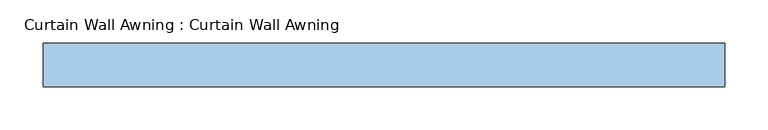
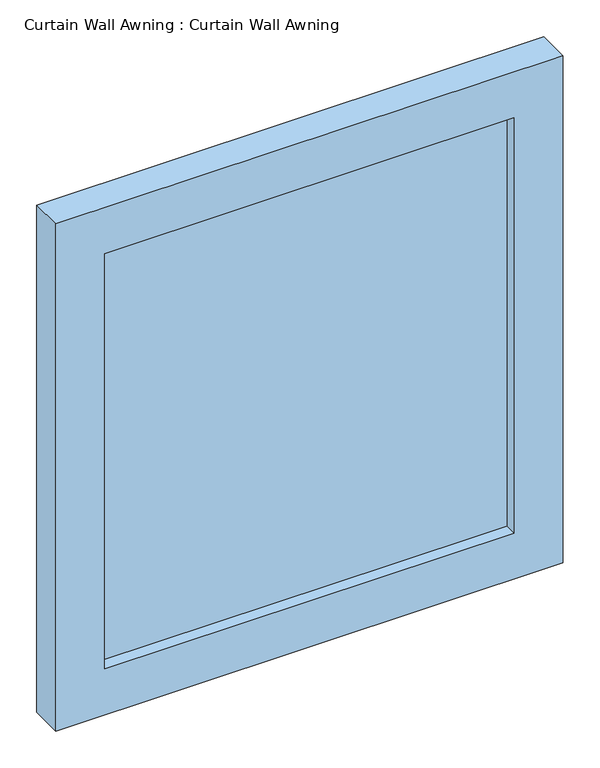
"""IFC4 building model written with IfcOpenShell, lengths in millimetres: window geometry, Curtain Wall Awning : Curtain Wall Awning."""

from ifc_helpers import new_model, si_unit, frame, origin, place, context, project, spatial, polyline, outline, extrude, source, transform, mapped, element, save


def curtain_wall_awning_curtain_wall_awning_3608cf77(model_context):
    return source(origin(), model_context, "Body", "SweptSolid", [
        extrude(outline(polyline([(320.1791708, 44.45), (-320.1791708, 44.45), (-320.1791708, 57.15), (320.1791708, 57.15), (320.1791708, 44.45)])), frame((0.0, 0.0, 76.2), z_axis=(0.0, 0.0, 1.0), x_axis=(1.0, 0.0, 0.0)), (0.0, 0.0, 1.0), 685.6),
        extrude(outline(polyline([(838.0, -396.3791708), (0.0, -396.3791708), (0.0, 396.3791708), (838.0, 396.3791708), (838.0, -396.3791708)]), holes=[polyline([(761.8, -320.1791708), (761.8, 320.1791708), (76.2, 320.1791708), (76.2, -320.1791708), (761.8, -320.1791708)])]), frame((0.0, 25.4, 0.0), z_axis=(0.0, 1.0, 0.0), x_axis=(0.0, 0.0, 1.0)), (0.0, 0.0, 1.0), 50.8),
    ])


if __name__ == "__main__":
    model = new_model("IFC4")
    model_context = context("Model", 3, world=origin())
    ifc_project = project(units=[si_unit("LENGTHUNIT", "METRE", prefix="MILLI")], contexts=[model_context])
    site = spatial("IfcSite", under=ifc_project)
    building = spatial("IfcBuilding", under=site)
    placement = place(None, origin())
    curtain_wall_awning_curtain_wall_awning_shape = curtain_wall_awning_curtain_wall_awning_3608cf77(model_context)
    element("IfcWindow", 1, ObjectType="Curtain Wall Awning : Curtain Wall Awning", at=placement, inside=building, context=model_context, shape_type="MappedRepresentation", body=[
        mapped(curtain_wall_awning_curtain_wall_awning_shape, transform((0.0, 0.0, 0.0), x_axis=(1.0, 0.0, 0.0), y_axis=(0.0, 1.0, 0.0), z_axis=(0.0, 0.0, 1.0))),
    ])
    save(model, "model.ifc")
